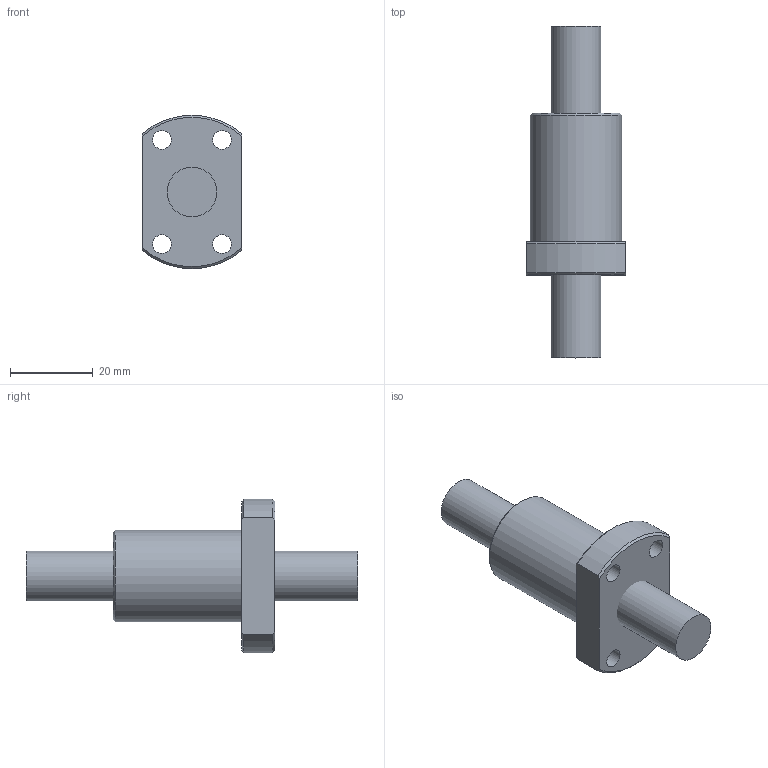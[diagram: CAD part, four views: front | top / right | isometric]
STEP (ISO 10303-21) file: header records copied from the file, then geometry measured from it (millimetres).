
FILE_DESCRIPTION(/* description */ (''),/* implementation_level */ '2;1');
FILE_NAME(/* name */ 'SFK01205.stp',/* time_stamp */ '2022-12-14T10:15:35+08:00',/* author */ (''),/* organization */ (''),/* preprocessor_version */ 'ST-DEVELOPER v16.7',/* originating_system */ 'SIEMENS PLM Software NX 1892',/* authorisation */ '');
FILE_SCHEMA (('AUTOMOTIVE_DESIGN { 1 0 10303 214 3 1 1 1 }'));
Length unit declared in the file: millimetre
Products named in the file (1): 031623C0FC89uv8p
Bounding box: 24 x 80 x 36.89 mm (x, y, z)
Volume: 26869.8 mm3; surface area: 8167.9 mm2
Topology: 2 solids, 2 shells, 20 faces, 48 edges, 33 vertices
Faces by surface type: cylinder 8, plane 7, cone 5
Full cylindrical faces by diameter (mm): 4.5 x4, 12 x1, 22 x1
Entity records: 587 total; most frequent: CARTESIAN_POINT 111, DIRECTION 92, ORIENTED_EDGE 74, AXIS2_PLACEMENT_3D 42, EDGE_CURVE 37, EDGE_LOOP 36, VERTEX_POINT 29, FACE_BOUND 25
